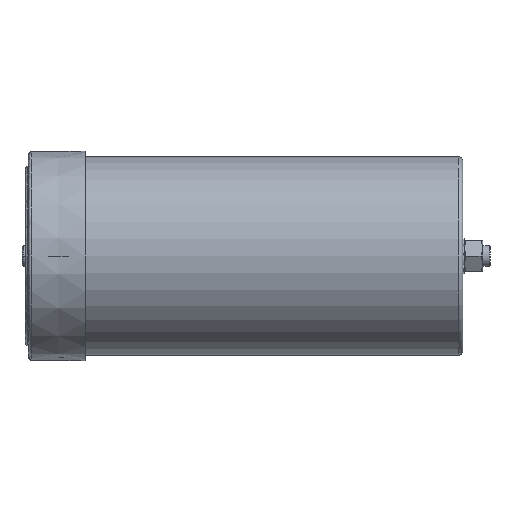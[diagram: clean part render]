
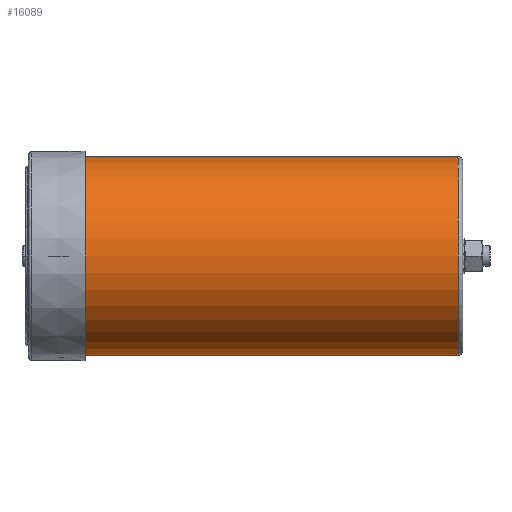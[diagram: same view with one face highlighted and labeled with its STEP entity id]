
A CAD part, left-side view. The second image highlights one B-rep face of the part: STEP entity #16089.
In plain terms, the highlighted cylindrical face has radius 58 mm (diameter 116 mm), a partial arc.
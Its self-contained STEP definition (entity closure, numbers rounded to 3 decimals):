
#409 = CARTESIAN_POINT ( 'NONE',  ( 0., -251.4, 58. ) ) ;
#505 = DIRECTION ( 'NONE',  ( 0., 1., 0. ) ) ;
#796 = FACE_OUTER_BOUND ( 'NONE', #9584, .T. ) ;
#944 = AXIS2_PLACEMENT_3D ( 'NONE', #13029, #505, #6759 ) ;
#1674 = EDGE_CURVE ( 'NONE', #8226, #14371, #5637, .T. ) ;
#1771 = EDGE_CURVE ( 'NONE', #14371, #8612, #19479, .T. ) ;
#1859 = ORIENTED_EDGE ( 'NONE', *, *, #1771, .T. ) ;
#3456 = CARTESIAN_POINT ( 'NONE',  ( 0., -248.9, -58. ) ) ;
#3659 = AXIS2_PLACEMENT_3D ( 'NONE', #19758, #13403, #16641 ) ;
#3676 = CIRCLE ( 'NONE', #3659, 58. ) ;
#4967 = DIRECTION ( 'NONE',  ( 0., -1., 0. ) ) ;
#5191 = VECTOR ( 'NONE', #13203, 1000. ) ;
#5637 = LINE ( 'NONE', #8010, #9598 ) ;
#6127 = ORIENTED_EDGE ( 'NONE', *, *, #18558, .F. ) ;
#6759 = DIRECTION ( 'NONE',  ( 0., 0., -1. ) ) ;
#8010 = CARTESIAN_POINT ( 'NONE',  ( 0., -251.4, -58. ) ) ;
#8212 = DIRECTION ( 'NONE',  ( 0., 0., -1. ) ) ;
#8226 = VERTEX_POINT ( 'NONE', #20241 ) ;
#8336 = ORIENTED_EDGE ( 'NONE', *, *, #16958, .F. ) ;
#8612 = VERTEX_POINT ( 'NONE', #18262 ) ;
#9584 = EDGE_LOOP ( 'NONE', ( #8336, #6127, #20036, #1859 ) ) ;
#9598 = VECTOR ( 'NONE', #14523, 1000. ) ;
#10181 = CARTESIAN_POINT ( 'NONE',  ( 0., 0., 58. ) ) ;
#13029 = CARTESIAN_POINT ( 'NONE',  ( 0., -248.9, 0. ) ) ;
#13203 = DIRECTION ( 'NONE',  ( 0., -1., 0. ) ) ;
#13290 = AXIS2_PLACEMENT_3D ( 'NONE', #19485, #4967, #8212 ) ;
#13403 = DIRECTION ( 'NONE',  ( 0., 1., 0. ) ) ;
#14371 = VERTEX_POINT ( 'NONE', #3456 ) ;
#14523 = DIRECTION ( 'NONE',  ( 0., -1., 0. ) ) ;
#14605 = LINE ( 'NONE', #409, #5191 ) ;
#15674 = VERTEX_POINT ( 'NONE', #10181 ) ;
#16089 = ADVANCED_FACE ( 'NONE', ( #796 ), #18082, .T. ) ;
#16641 = DIRECTION ( 'NONE',  ( 0., 0., -1. ) ) ;
#16958 = EDGE_CURVE ( 'NONE', #15674, #8612, #14605, .T. ) ;
#18082 = CYLINDRICAL_SURFACE ( 'NONE', #13290, 58. ) ;
#18262 = CARTESIAN_POINT ( 'NONE',  ( 0., -248.9, 58. ) ) ;
#18558 = EDGE_CURVE ( 'NONE', #8226, #15674, #3676, .T. ) ;
#19479 = CIRCLE ( 'NONE', #944, 58. ) ;
#19485 = CARTESIAN_POINT ( 'NONE',  ( 0., -251.4, 0. ) ) ;
#19758 = CARTESIAN_POINT ( 'NONE',  ( 0., 0., 0. ) ) ;
#20036 = ORIENTED_EDGE ( 'NONE', *, *, #1674, .T. ) ;
#20241 = CARTESIAN_POINT ( 'NONE',  ( 0., 0., -58. ) ) ;
